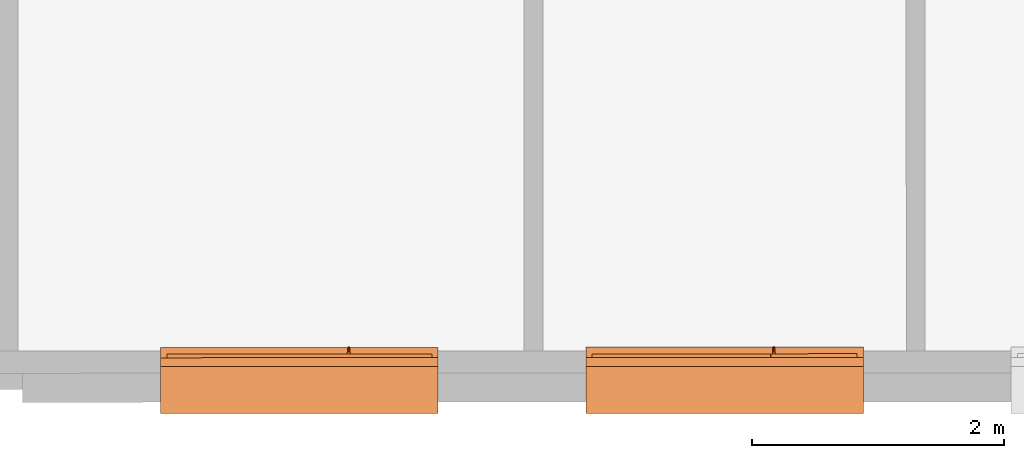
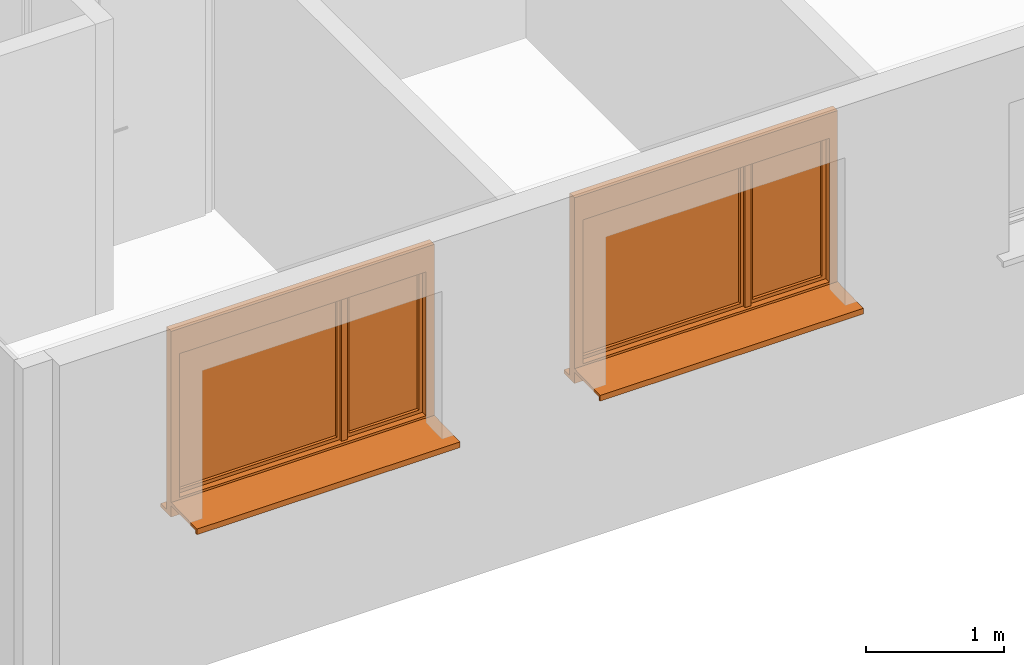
# One storey, part 3 of 9: 2 proxies.
"""IFC2X3 building model written with IfcOpenShell, lengths in metres."""

from ifc_helpers import new_model, entity, si_unit, converted_unit, derived_unit, direction, frame, origin, origin_with_axes, place, context, subcontext, project, spatial, closed_shell, open_shell, surface_model, source, transform, mapped, element, save


model = new_model("IFC2X3")

# Units and contexts
model_context = context("Model", 3, precision=1e-05, world=origin(), true_north=direction((0.772621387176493, -0.634867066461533)))
body_context = subcontext(model_context, "Body", "Model", "MODEL_VIEW")
ifc_project = project(units=[si_unit("LENGTHUNIT", "METRE"), si_unit("AREAUNIT", "SQUARE_METRE"), si_unit("VOLUMEUNIT", "CUBIC_METRE"), si_unit("MASSUNIT", "GRAM", prefix="KILO"), converted_unit("PLANEANGLEUNIT", "DEGREE", entity("IfcPlaneAngleMeasure", 0.0174532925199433), si_unit("PLANEANGLEUNIT", "RADIAN"), dimensions=[0, 0, 0, 0, 0, 0, 0]), derived_unit("THERMALTRANSMITTANCEUNIT", [(si_unit("POWERUNIT", "WATT"), 1), (si_unit("THERMODYNAMICTEMPERATUREUNIT", "KELVIN"), -1), (si_unit("LENGTHUNIT", "METRE"), -2)]), derived_unit("VOLUMETRICFLOWRATEUNIT", [(si_unit("LENGTHUNIT", "METRE"), 3), (converted_unit("TIMEUNIT", "hour", entity("IfcTimeMeasure", 3600.0), si_unit("TIMEUNIT", "SECOND"), dimensions=[0, 0, 1, 0, 0, 0, 0]), -1), (si_unit("LENGTHUNIT", "METRE"), -1)])], contexts=[model_context])

# Site, building, storey
site_placement = place(None, origin())
site = spatial("IfcSite", under=ifc_project, at=site_placement, Name="Modelle auf dem Nullpunkt", CompositionType="ELEMENT")
building_placement = place(site_placement, origin())
building = spatial("IfcBuilding", under=site, at=building_placement, Name="I", CompositionType="ELEMENT")
storey_placement = place(building_placement, origin())
storey = spatial("IfcBuildingStorey", under=building, at=storey_placement, Name="1.OG", CompositionType="ELEMENT", Elevation=0.0)

# Proxies
shared_shape_1 = source(origin_with_axes(), body_context, "Body", "SurfaceModel", [
    surface_model("IfcShellBasedSurfaceModel", [(0.0, 0.020000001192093, 0.1), (0.0, 0.372500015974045, 0.1), (0.0, 0.372500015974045, 0.13), (0.0, 0.0, 0.12), (0.0, 0.0, 0.07), (0.0, 0.020000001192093, 0.07), (2.19999999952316, 0.372500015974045, 0.1), (2.2, 0.020000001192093, 0.1), (2.2, 0.020000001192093, 0.07), (2.2, 0.0, 0.07), (2.2, 0.0, 0.12), (2.19999999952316, 0.372500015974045, 0.13)], [closed_shell([[[0, 1, 2, 3, 4, 5]], [[6, 7, 8, 9, 10, 11]], [[1, 0, 7, 6]], [[2, 1, 6, 11]], [[3, 2, 11, 10]], [[4, 3, 10, 9]], [[5, 4, 9, 8]], [[0, 5, 8, 7]]], orient=[[False], [False], [False], [False], [False], [False], [False], [False]])]),
    surface_model("IfcShellBasedSurfaceModel", [(0.0, 0.525000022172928, 0.0), (0.0, 0.525000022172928, 0.03), (0.0, 0.412500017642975, 0.03), (0.0, 0.412500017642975, 0.0), (2.2, 0.412500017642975, 0.0), (2.2, 0.412500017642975, 0.03), (2.19999999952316, 0.525000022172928, 0.03), (2.19999999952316, 0.525000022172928, 0.0)], [closed_shell([[[0, 1, 2, 3]], [[4, 5, 6, 7]], [[3, 4, 7, 0]], [[2, 5, 4, 3]], [[1, 6, 5, 2]], [[0, 7, 6, 1]]], orient=[[False], [False], [False], [False], [False], [False]])]),
    surface_model("IfcShellBasedSurfaceModel", [(0.0, 0.442500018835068, 1.64), (0.0, 0.442500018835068, 0.0), (0.0700000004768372, 0.442500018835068, 0.0), (0.0700000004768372, 0.442500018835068, 1.64), (0.0, 0.372500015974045, 0.0), (0.0, 0.372500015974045, 1.64), (0.07, 0.372500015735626, 1.64), (0.07, 0.372500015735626, 0.0)], [closed_shell([[[0, 1, 2, 3]], [[4, 5, 6, 7]], [[1, 0, 5, 4]], [[2, 1, 4, 7]], [[3, 2, 7, 6]], [[0, 3, 6, 5]]], orient=[[False], [False], [False], [False], [False], [False]])]),
    surface_model("IfcShellBasedSurfaceModel", [(2.12999999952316, 0.442500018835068, 1.64), (2.12999999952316, 0.442500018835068, 0.0), (2.2, 0.442500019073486, 0.0), (2.2, 0.442500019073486, 1.64), (2.12999999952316, 0.372500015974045, 0.0), (2.12999999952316, 0.372500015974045, 1.64), (2.19999999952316, 0.372500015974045, 1.64), (2.19999999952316, 0.372500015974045, 0.0)], [closed_shell([[[0, 1, 2, 3]], [[4, 5, 6, 7]], [[1, 0, 5, 4]], [[2, 1, 4, 7]], [[3, 2, 7, 6]], [[0, 3, 6, 5]]], orient=[[False], [False], [False], [False], [False], [False]])]),
    surface_model("IfcShellBasedSurfaceModel", [(0.0700000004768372, 0.442500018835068, 0.15), (0.0700000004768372, 0.442500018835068, 0.0), (2.12999999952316, 0.442500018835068, 0.0), (2.12999999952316, 0.442500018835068, 0.15), (0.07, 0.372500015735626, 0.0), (0.07, 0.372500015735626, 0.15), (2.12999999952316, 0.372500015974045, 0.15), (2.12999999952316, 0.372500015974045, 0.0)], [closed_shell([[[0, 1, 2, 3]], [[4, 5, 6, 7]], [[1, 0, 5, 4]], [[2, 1, 4, 7]], [[3, 2, 7, 6]], [[0, 3, 6, 5]]], orient=[[False], [False], [False], [False], [False], [False]])]),
    surface_model("IfcShellBasedSurfaceModel", [(0.0700000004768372, 0.442500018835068, 1.64), (0.0700000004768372, 0.442500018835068, 1.42), (2.12999999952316, 0.442500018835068, 1.42), (2.12999999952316, 0.442500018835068, 1.64), (0.07, 0.372500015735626, 1.42), (0.07, 0.372500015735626, 1.64), (2.12999999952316, 0.372500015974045, 1.64), (2.12999999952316, 0.372500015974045, 1.42)], [closed_shell([[[0, 1, 2, 3]], [[4, 5, 6, 7]], [[1, 0, 5, 4]], [[2, 1, 4, 7]], [[3, 2, 7, 6]], [[0, 3, 6, 5]]], orient=[[False], [False], [False], [False], [False], [False]])]),
    surface_model("IfcShellBasedSurfaceModel", [(0.0500000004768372, 0.472500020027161, 1.44), (0.0500000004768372, 0.472500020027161, 0.13), (0.100000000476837, 0.472500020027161, 0.13), (0.100000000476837, 0.472500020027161, 1.44), (0.0500000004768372, 0.422500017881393, 0.13), (0.0500000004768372, 0.422500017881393, 1.44), (0.1, 0.422500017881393, 1.44), (0.1, 0.422500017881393, 0.13)], [closed_shell([[[0, 1, 2, 3]], [[4, 5, 6, 7]], [[1, 0, 5, 4]], [[2, 1, 4, 7]], [[3, 2, 7, 6]], [[0, 3, 6, 5]]], orient=[[False], [False], [False], [False], [False], [False]])]),
    surface_model("IfcShellBasedSurfaceModel", [(1.41498387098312, 0.472500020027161, 1.44), (1.41498387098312, 0.472500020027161, 0.13), (1.46498387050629, 0.472500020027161, 0.13), (1.46498387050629, 0.472500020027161, 1.44), (1.41498387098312, 0.422500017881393, 0.13), (1.41498387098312, 0.422500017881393, 1.44), (1.46498387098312, 0.422500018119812, 1.44), (1.46498387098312, 0.422500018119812, 0.13)], [closed_shell([[[0, 1, 2, 3]], [[4, 5, 6, 7]], [[1, 0, 5, 4]], [[2, 1, 4, 7]], [[3, 2, 7, 6]], [[0, 3, 6, 5]]], orient=[[False], [False], [False], [False], [False], [False]])]),
    surface_model("IfcShellBasedSurfaceModel", [(0.100000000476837, 0.472500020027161, 0.18), (0.100000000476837, 0.472500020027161, 0.13), (1.41498387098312, 0.472500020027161, 0.13), (1.41498387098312, 0.472500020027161, 0.18), (0.1, 0.422500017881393, 0.13), (0.1, 0.422500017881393, 0.18), (1.41498387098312, 0.422500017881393, 0.18), (1.41498387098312, 0.422500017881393, 0.13)], [closed_shell([[[0, 1, 2, 3]], [[4, 5, 6, 7]], [[1, 0, 5, 4]], [[2, 1, 4, 7]], [[3, 2, 7, 6]], [[0, 3, 6, 5]]], orient=[[False], [False], [False], [False], [False], [False]])]),
    surface_model("IfcShellBasedSurfaceModel", [(0.100000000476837, 0.472500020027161, 1.44), (0.100000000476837, 0.472500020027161, 1.39), (1.41498387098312, 0.472500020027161, 1.39), (1.41498387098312, 0.472500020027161, 1.44), (0.1, 0.422500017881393, 1.39), (0.1, 0.422500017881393, 1.44), (1.41498387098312, 0.422500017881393, 1.44), (1.41498387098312, 0.422500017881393, 1.39)], [closed_shell([[[0, 1, 2, 3]], [[4, 5, 6, 7]], [[1, 0, 5, 4]], [[2, 1, 4, 7]], [[3, 2, 7, 6]], [[0, 3, 6, 5]]], orient=[[False], [False], [False], [False], [False], [False]])]),
    surface_model("IfcShellBasedSurfaceModel", [(1.43998387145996, 0.422500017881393, 1.42), (1.43998387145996, 0.422500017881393, 0.15), (1.48998387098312, 0.422500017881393, 0.15), (1.48998387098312, 0.422500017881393, 1.42), (1.43998387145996, 0.397500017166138, 0.15), (1.43998387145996, 0.397500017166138, 1.42), (1.48998387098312, 0.397500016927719, 1.42), (1.48998387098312, 0.397500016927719, 0.15)], [closed_shell([[[0, 1, 2, 3]], [[4, 5, 6, 7]], [[1, 0, 5, 4]], [[2, 1, 4, 7]], [[3, 2, 7, 6]], [[0, 3, 6, 5]]], orient=[[False], [False], [False], [False], [False], [False]])]),
    surface_model("IfcShellBasedSurfaceModel", [(1.46598387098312, 0.472500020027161, 1.44), (1.46598387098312, 0.472500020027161, 0.13), (1.51598387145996, 0.472500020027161, 0.13), (1.51598387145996, 0.472500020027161, 1.44), (1.46598387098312, 0.422500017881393, 0.13), (1.46598387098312, 0.422500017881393, 1.44), (1.51598387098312, 0.422500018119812, 1.44), (1.51598387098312, 0.422500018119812, 0.13)], [closed_shell([[[0, 1, 2, 3]], [[4, 5, 6, 7]], [[1, 0, 5, 4]], [[2, 1, 4, 7]], [[3, 2, 7, 6]], [[0, 3, 6, 5]]], orient=[[False], [False], [False], [False], [False], [False]])]),
    surface_model("IfcShellBasedSurfaceModel", [(2.1, 0.472500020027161, 1.44), (2.1, 0.472500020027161, 0.13), (2.15, 0.472500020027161, 0.13), (2.15, 0.472500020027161, 1.44), (2.09999999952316, 0.422500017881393, 0.13), (2.09999999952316, 0.422500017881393, 1.44), (2.15000000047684, 0.422500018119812, 1.44), (2.15000000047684, 0.422500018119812, 0.13)], [closed_shell([[[0, 1, 2, 3]], [[4, 5, 6, 7]], [[1, 0, 5, 4]], [[2, 1, 4, 7]], [[3, 2, 7, 6]], [[0, 3, 6, 5]]], orient=[[False], [False], [False], [False], [False], [False]])]),
    surface_model("IfcShellBasedSurfaceModel", [(1.51598387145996, 0.472500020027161, 0.18), (1.51598387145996, 0.472500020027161, 0.13), (2.1, 0.472500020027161, 0.13), (2.1, 0.472500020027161, 0.18), (1.51598387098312, 0.422500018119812, 0.13), (1.51598387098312, 0.422500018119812, 0.18), (2.09999999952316, 0.422500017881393, 0.18), (2.09999999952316, 0.422500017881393, 0.13)], [closed_shell([[[0, 1, 2, 3]], [[4, 5, 6, 7]], [[1, 0, 5, 4]], [[2, 1, 4, 7]], [[3, 2, 7, 6]], [[0, 3, 6, 5]]], orient=[[False], [False], [False], [False], [False], [False]])]),
    surface_model("IfcShellBasedSurfaceModel", [(1.51598387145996, 0.472500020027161, 1.44), (1.51598387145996, 0.472500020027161, 1.39), (2.1, 0.472500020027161, 1.39), (2.1, 0.472500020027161, 1.44), (1.51598387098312, 0.422500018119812, 1.39), (1.51598387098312, 0.422500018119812, 1.44), (2.09999999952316, 0.422500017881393, 1.44), (2.09999999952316, 0.422500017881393, 1.39)], [closed_shell([[[0, 1, 2, 3]], [[4, 5, 6, 7]], [[1, 0, 5, 4]], [[2, 1, 4, 7]], [[3, 2, 7, 6]], [[0, 3, 6, 5]]], orient=[[False], [False], [False], [False], [False], [False]])]),
    surface_model("IfcShellBasedSurfaceModel", [(1.47848387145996, 0.472500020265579, 0.75), (1.50348387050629, 0.472500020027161, 0.75), (1.50348387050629, 0.472500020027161, 0.71), (1.47848387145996, 0.472500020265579, 0.71), (1.47848387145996, 0.482500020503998, 0.71), (1.50348387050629, 0.482500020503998, 0.71), (1.50348387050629, 0.482500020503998, 0.75), (1.47848387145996, 0.482500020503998, 0.75)], [closed_shell([[[0, 1, 2, 3]], [[4, 5, 6, 7]], [[3, 4, 7, 0]], [[2, 5, 4, 3]], [[1, 6, 5, 2]], [[0, 7, 6, 1]]], orient=[[False], [False], [False], [False], [False], [False]])]),
    surface_model("IfcShellBasedSurfaceModel", [(1.50098387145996, 0.482500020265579, 0.73), (1.49964412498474, 0.482500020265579, 0.725), (1.49598387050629, 0.482500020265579, 0.721339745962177), (1.49098387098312, 0.482500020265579, 0.72), (1.48598387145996, 0.482500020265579, 0.721339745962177), (1.4823236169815, 0.482500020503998, 0.725), (1.48098387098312, 0.482500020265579, 0.73), (1.4823236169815, 0.482500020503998, 0.735), (1.48598387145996, 0.482500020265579, 0.738660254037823), (1.49098387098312, 0.482500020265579, 0.74), (1.49598387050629, 0.482500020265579, 0.738660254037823), (1.49964412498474, 0.482500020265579, 0.735), (1.49964412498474, 0.527500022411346, 0.735), (1.50098387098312, 0.522500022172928, 0.73), (1.49598387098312, 0.531160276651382, 0.738660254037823), (1.49098387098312, 0.532500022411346, 0.74), (1.48598387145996, 0.531160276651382, 0.738660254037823), (1.4823236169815, 0.527500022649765, 0.735), (1.48098387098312, 0.522500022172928, 0.73), (1.4823236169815, 0.517500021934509, 0.725), (1.48598387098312, 0.513839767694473, 0.721339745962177), (1.49098387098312, 0.512500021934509, 0.72), (1.49598387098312, 0.513839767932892, 0.721339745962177), (1.49964412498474, 0.517500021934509, 0.725), (1.50098387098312, 0.522500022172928, 0.615), (1.49964412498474, 0.527500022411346, 0.615), (1.49598387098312, 0.531160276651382, 0.615), (1.49098387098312, 0.532500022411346, 0.615), (1.48598387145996, 0.531160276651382, 0.615), (1.4823236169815, 0.527500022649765, 0.615), (1.48098387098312, 0.522500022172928, 0.615), (1.4823236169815, 0.517500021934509, 0.615), (1.48598387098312, 0.513839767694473, 0.615), (1.49098387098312, 0.512500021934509, 0.615), (1.49598387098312, 0.513839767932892, 0.615), (1.49964412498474, 0.517500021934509, 0.615)], [closed_shell([[[0, 1, 2, 3, 4, 5, 6, 7, 8, 9, 10, 11]], [[0, 11, 12, 13]], [[11, 10, 14, 12]], [[10, 9, 15, 14]], [[9, 8, 16, 15]], [[8, 7, 17, 16]], [[7, 6, 18, 17]], [[6, 5, 19, 18]], [[5, 4, 20, 19]], [[4, 3, 21, 20]], [[3, 2, 22, 21]], [[2, 1, 23, 22]], [[1, 0, 13, 23]], [[24, 25, 26, 27, 28, 29, 30, 31, 32, 33, 34, 35]], [[13, 12, 25, 24]], [[12, 14, 26, 25]], [[14, 15, 27, 26]], [[15, 16, 28, 27]], [[16, 17, 29, 28]], [[17, 18, 30, 29]], [[18, 19, 31, 30]], [[19, 20, 32, 31]], [[20, 21, 33, 32]], [[21, 22, 34, 33]], [[22, 23, 35, 34]], [[23, 13, 24, 35]]], orient=[[False], [False], [False], [False], [False], [False], [False], [False], [False], [False], [False], [False], [False], [False], [False], [False], [False], [False], [False], [False], [False], [False], [False], [False], [False], [False]])]),
    surface_model("IfcShellBasedSurfaceModel", [(0.100000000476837, 0.447500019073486, 0.18), (1.41498387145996, 0.447500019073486, 0.18), (1.41498387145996, 0.447500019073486, 1.39), (0.100000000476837, 0.447500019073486, 1.39)], [open_shell([[[0, 1, 2, 3]]], orient=[[False]])]),
    surface_model("IfcShellBasedSurfaceModel", [(1.51598387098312, 0.447500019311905, 0.18), (2.1, 0.447500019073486, 0.18), (2.1, 0.447500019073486, 1.39), (1.51598387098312, 0.447500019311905, 1.39)], [open_shell([[[0, 1, 2, 3]]], orient=[[False]])]),
])
proxy_1_placement = place(storey_placement, frame((30.6756132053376, -8.23292398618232, 439.75), z_axis=(0.0, 0.0, 1.0), x_axis=(0.999999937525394, 0.000353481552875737, 0.0)))
element("IfcBuildingElementProxy", 1, at=proxy_1_placement, inside=storey, Name="2flg Weiß Stulp", context=body_context, shape_type="MappedRepresentation", body=[
    mapped(shared_shape_1, transform((0.0, 0.0, 0.0), x_axis=(1.0, 0.0, 0.0), y_axis=(0.0, 1.0, 0.0), z_axis=(0.0, 0.0, 1.0), scale=1.0)),
])
shared_shape_2 = source(origin_with_axes(), body_context, "Body", "SurfaceModel", [
    surface_model("IfcShellBasedSurfaceModel", [(0.0, 0.020000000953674, 0.1), (0.0, 0.372500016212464, 0.1), (0.0, 0.372500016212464, 0.13), (0.0, 0.0, 0.12), (0.0, 0.0, 0.07), (0.0, 0.020000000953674, 0.07), (2.20000000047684, 0.372500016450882, 0.1), (2.20000000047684, 0.020000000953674, 0.1), (2.20000000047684, 0.020000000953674, 0.07), (2.20000000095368, 0.0, 0.07), (2.20000000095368, 0.0, 0.12), (2.20000000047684, 0.372500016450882, 0.13)], [closed_shell([[[0, 1, 2, 3, 4, 5]], [[6, 7, 8, 9, 10, 11]], [[1, 0, 7, 6]], [[2, 1, 6, 11]], [[3, 2, 11, 10]], [[4, 3, 10, 9]], [[5, 4, 9, 8]], [[0, 5, 8, 7]]], orient=[[False], [False], [False], [False], [False], [False], [False], [False]])]),
    surface_model("IfcShellBasedSurfaceModel", [(0.0, 0.525000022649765, 0.0), (0.0, 0.525000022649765, 0.03), (0.0, 0.412500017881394, 0.03), (0.0, 0.412500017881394, 0.0), (2.20000000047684, 0.412500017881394, 0.0), (2.20000000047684, 0.412500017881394, 0.03), (2.20000000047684, 0.525000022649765, 0.03), (2.20000000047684, 0.525000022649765, 0.0)], [closed_shell([[[0, 1, 2, 3]], [[4, 5, 6, 7]], [[3, 4, 7, 0]], [[2, 5, 4, 3]], [[1, 6, 5, 2]], [[0, 7, 6, 1]]], orient=[[False], [False], [False], [False], [False], [False]])]),
    surface_model("IfcShellBasedSurfaceModel", [(0.0, 0.442500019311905, 1.64), (0.0, 0.442500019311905, 0.0), (0.0700000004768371, 0.442500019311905, 0.0), (0.0700000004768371, 0.442500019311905, 1.64), (0.0, 0.372500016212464, 0.0), (0.0, 0.372500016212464, 1.64), (0.0700000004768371, 0.372500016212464, 1.64), (0.0700000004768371, 0.372500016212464, 0.0)], [closed_shell([[[0, 1, 2, 3]], [[4, 5, 6, 7]], [[1, 0, 5, 4]], [[2, 1, 4, 7]], [[3, 2, 7, 6]], [[0, 3, 6, 5]]], orient=[[False], [False], [False], [False], [False], [False]])]),
    surface_model("IfcShellBasedSurfaceModel", [(2.13000000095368, 0.442500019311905, 1.64), (2.13000000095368, 0.442500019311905, 0.0), (2.20000000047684, 0.442500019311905, 0.0), (2.20000000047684, 0.442500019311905, 1.64), (2.13000000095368, 0.372500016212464, 0.0), (2.13000000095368, 0.372500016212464, 1.64), (2.20000000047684, 0.372500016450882, 1.64), (2.20000000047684, 0.372500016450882, 0.0)], [closed_shell([[[0, 1, 2, 3]], [[4, 5, 6, 7]], [[1, 0, 5, 4]], [[2, 1, 4, 7]], [[3, 2, 7, 6]], [[0, 3, 6, 5]]], orient=[[False], [False], [False], [False], [False], [False]])]),
    surface_model("IfcShellBasedSurfaceModel", [(0.0700000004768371, 0.442500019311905, 0.15), (0.0700000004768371, 0.442500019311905, 0.0), (2.13000000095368, 0.442500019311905, 0.0), (2.13000000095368, 0.442500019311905, 0.15), (0.0700000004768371, 0.372500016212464, 0.0), (0.0700000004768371, 0.372500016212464, 0.15), (2.13000000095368, 0.372500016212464, 0.15), (2.13000000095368, 0.372500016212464, 0.0)], [closed_shell([[[0, 1, 2, 3]], [[4, 5, 6, 7]], [[1, 0, 5, 4]], [[2, 1, 4, 7]], [[3, 2, 7, 6]], [[0, 3, 6, 5]]], orient=[[False], [False], [False], [False], [False], [False]])]),
    surface_model("IfcShellBasedSurfaceModel", [(0.0700000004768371, 0.442500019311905, 1.64), (0.0700000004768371, 0.442500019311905, 1.42), (2.13000000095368, 0.442500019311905, 1.42), (2.13000000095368, 0.442500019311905, 1.64), (0.0700000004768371, 0.372500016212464, 1.42), (0.0700000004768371, 0.372500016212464, 1.64), (2.13000000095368, 0.372500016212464, 1.64), (2.13000000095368, 0.372500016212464, 1.42)], [closed_shell([[[0, 1, 2, 3]], [[4, 5, 6, 7]], [[1, 0, 5, 4]], [[2, 1, 4, 7]], [[3, 2, 7, 6]], [[0, 3, 6, 5]]], orient=[[False], [False], [False], [False], [False], [False]])]),
    surface_model("IfcShellBasedSurfaceModel", [(0.05, 0.472500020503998, 1.44), (0.05, 0.472500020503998, 0.13), (0.100000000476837, 0.472500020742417, 0.13), (0.100000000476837, 0.472500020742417, 1.44), (0.0500000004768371, 0.422500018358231, 0.13), (0.0500000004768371, 0.422500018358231, 1.44), (0.100000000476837, 0.422500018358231, 1.44), (0.100000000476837, 0.422500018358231, 0.13)], [closed_shell([[[0, 1, 2, 3]], [[4, 5, 6, 7]], [[1, 0, 5, 4]], [[2, 1, 4, 7]], [[3, 2, 7, 6]], [[0, 3, 6, 5]]], orient=[[False], [False], [False], [False], [False], [False]])]),
    surface_model("IfcShellBasedSurfaceModel", [(1.41498387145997, 0.472500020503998, 1.44), (1.41498387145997, 0.472500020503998, 0.13), (1.4649838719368, 0.472500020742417, 0.13), (1.4649838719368, 0.472500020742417, 1.44), (1.41498387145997, 0.422500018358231, 0.13), (1.41498387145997, 0.422500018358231, 1.44), (1.4649838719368, 0.422500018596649, 1.44), (1.4649838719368, 0.422500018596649, 0.13)], [closed_shell([[[0, 1, 2, 3]], [[4, 5, 6, 7]], [[1, 0, 5, 4]], [[2, 1, 4, 7]], [[3, 2, 7, 6]], [[0, 3, 6, 5]]], orient=[[False], [False], [False], [False], [False], [False]])]),
    surface_model("IfcShellBasedSurfaceModel", [(0.100000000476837, 0.472500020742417, 0.18), (0.100000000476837, 0.472500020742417, 0.13), (1.41498387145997, 0.472500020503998, 0.13), (1.41498387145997, 0.472500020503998, 0.18), (0.100000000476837, 0.422500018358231, 0.13), (0.100000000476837, 0.422500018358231, 0.18), (1.41498387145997, 0.422500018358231, 0.18), (1.41498387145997, 0.422500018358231, 0.13)], [closed_shell([[[0, 1, 2, 3]], [[4, 5, 6, 7]], [[1, 0, 5, 4]], [[2, 1, 4, 7]], [[3, 2, 7, 6]], [[0, 3, 6, 5]]], orient=[[False], [False], [False], [False], [False], [False]])]),
    surface_model("IfcShellBasedSurfaceModel", [(0.100000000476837, 0.472500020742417, 1.44), (0.100000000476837, 0.472500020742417, 1.39), (1.41498387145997, 0.472500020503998, 1.39), (1.41498387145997, 0.472500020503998, 1.44), (0.100000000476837, 0.422500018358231, 1.39), (0.100000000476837, 0.422500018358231, 1.44), (1.41498387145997, 0.422500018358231, 1.44), (1.41498387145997, 0.422500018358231, 1.39)], [closed_shell([[[0, 1, 2, 3]], [[4, 5, 6, 7]], [[1, 0, 5, 4]], [[2, 1, 4, 7]], [[3, 2, 7, 6]], [[0, 3, 6, 5]]], orient=[[False], [False], [False], [False], [False], [False]])]),
    surface_model("IfcShellBasedSurfaceModel", [(1.43998387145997, 0.422500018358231, 1.42), (1.43998387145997, 0.422500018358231, 0.15), (1.48998387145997, 0.422500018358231, 0.15), (1.48998387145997, 0.422500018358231, 1.42), (1.43998387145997, 0.397500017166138, 0.15), (1.43998387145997, 0.397500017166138, 1.42), (1.48998387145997, 0.397500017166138, 1.42), (1.48998387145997, 0.397500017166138, 0.15)], [closed_shell([[[0, 1, 2, 3]], [[4, 5, 6, 7]], [[1, 0, 5, 4]], [[2, 1, 4, 7]], [[3, 2, 7, 6]], [[0, 3, 6, 5]]], orient=[[False], [False], [False], [False], [False], [False]])]),
    surface_model("IfcShellBasedSurfaceModel", [(1.46598387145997, 0.472500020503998, 1.44), (1.46598387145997, 0.472500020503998, 0.13), (1.51598387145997, 0.472500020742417, 0.13), (1.51598387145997, 0.472500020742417, 1.44), (1.4659838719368, 0.422500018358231, 0.13), (1.4659838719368, 0.422500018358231, 1.44), (1.51598387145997, 0.422500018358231, 1.44), (1.51598387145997, 0.422500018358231, 0.13)], [closed_shell([[[0, 1, 2, 3]], [[4, 5, 6, 7]], [[1, 0, 5, 4]], [[2, 1, 4, 7]], [[3, 2, 7, 6]], [[0, 3, 6, 5]]], orient=[[False], [False], [False], [False], [False], [False]])]),
    surface_model("IfcShellBasedSurfaceModel", [(2.10000000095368, 0.472500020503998, 1.44), (2.10000000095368, 0.472500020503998, 0.13), (2.15000000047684, 0.472500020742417, 0.13), (2.15000000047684, 0.472500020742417, 1.44), (2.10000000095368, 0.422500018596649, 0.13), (2.10000000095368, 0.422500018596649, 1.44), (2.15000000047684, 0.422500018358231, 1.44), (2.15000000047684, 0.422500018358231, 0.13)], [closed_shell([[[0, 1, 2, 3]], [[4, 5, 6, 7]], [[1, 0, 5, 4]], [[2, 1, 4, 7]], [[3, 2, 7, 6]], [[0, 3, 6, 5]]], orient=[[False], [False], [False], [False], [False], [False]])]),
    surface_model("IfcShellBasedSurfaceModel", [(1.51598387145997, 0.472500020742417, 0.18), (1.51598387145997, 0.472500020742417, 0.13), (2.10000000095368, 0.472500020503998, 0.13), (2.10000000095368, 0.472500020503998, 0.18), (1.51598387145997, 0.422500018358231, 0.13), (1.51598387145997, 0.422500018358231, 0.18), (2.10000000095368, 0.422500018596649, 0.18), (2.10000000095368, 0.422500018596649, 0.13)], [closed_shell([[[0, 1, 2, 3]], [[4, 5, 6, 7]], [[1, 0, 5, 4]], [[2, 1, 4, 7]], [[3, 2, 7, 6]], [[0, 3, 6, 5]]], orient=[[False], [False], [False], [False], [False], [False]])]),
    surface_model("IfcShellBasedSurfaceModel", [(1.51598387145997, 0.472500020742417, 1.44), (1.51598387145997, 0.472500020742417, 1.39), (2.10000000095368, 0.472500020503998, 1.39), (2.10000000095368, 0.472500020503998, 1.44), (1.51598387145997, 0.422500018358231, 1.39), (1.51598387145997, 0.422500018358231, 1.44), (2.10000000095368, 0.422500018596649, 1.44), (2.10000000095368, 0.422500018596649, 1.39)], [closed_shell([[[0, 1, 2, 3]], [[4, 5, 6, 7]], [[1, 0, 5, 4]], [[2, 1, 4, 7]], [[3, 2, 7, 6]], [[0, 3, 6, 5]]], orient=[[False], [False], [False], [False], [False], [False]])]),
    surface_model("IfcShellBasedSurfaceModel", [(1.47848387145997, 0.472500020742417, 0.75), (1.5034838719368, 0.472500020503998, 0.75), (1.5034838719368, 0.472500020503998, 0.71), (1.47848387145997, 0.472500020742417, 0.71), (1.47848387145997, 0.482500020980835, 0.71), (1.5034838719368, 0.482500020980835, 0.71), (1.5034838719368, 0.482500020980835, 0.75), (1.47848387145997, 0.482500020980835, 0.75)], [closed_shell([[[0, 1, 2, 3]], [[4, 5, 6, 7]], [[3, 4, 7, 0]], [[2, 5, 4, 3]], [[1, 6, 5, 2]], [[0, 7, 6, 1]]], orient=[[False], [False], [False], [False], [False], [False]])]),
    surface_model("IfcShellBasedSurfaceModel", [(1.50098387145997, 0.482500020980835, 0.73), (1.49964412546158, 0.482500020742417, 0.725), (1.4959838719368, 0.482500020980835, 0.721339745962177), (1.49098387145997, 0.482500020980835, 0.72), (1.48598387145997, 0.482500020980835, 0.721339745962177), (1.48232361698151, 0.482500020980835, 0.725), (1.48098387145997, 0.482500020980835, 0.73), (1.48232361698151, 0.482500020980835, 0.735), (1.48598387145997, 0.482500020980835, 0.738660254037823), (1.49098387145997, 0.482500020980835, 0.74), (1.4959838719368, 0.482500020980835, 0.738660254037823), (1.49964412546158, 0.482500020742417, 0.735), (1.49964412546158, 0.527500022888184, 0.735), (1.5009838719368, 0.522500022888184, 0.73), (1.49598387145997, 0.53116027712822, 0.738660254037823), (1.49098387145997, 0.532500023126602, 0.74), (1.4859838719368, 0.53116027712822, 0.738660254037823), (1.48232361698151, 0.527500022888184, 0.735), (1.48098387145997, 0.522500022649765, 0.73), (1.48232361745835, 0.517500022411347, 0.725), (1.48598387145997, 0.513839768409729, 0.721339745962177), (1.49098387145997, 0.512500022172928, 0.72), (1.49598387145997, 0.513839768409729, 0.721339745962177), (1.49964412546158, 0.517500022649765, 0.725), (1.5009838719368, 0.522500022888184, 0.615), (1.49964412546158, 0.527500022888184, 0.615), (1.49598387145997, 0.53116027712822, 0.615), (1.49098387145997, 0.532500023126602, 0.615), (1.4859838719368, 0.53116027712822, 0.615), (1.48232361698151, 0.527500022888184, 0.615), (1.48098387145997, 0.522500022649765, 0.615), (1.48232361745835, 0.517500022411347, 0.615), (1.48598387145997, 0.513839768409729, 0.615), (1.49098387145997, 0.512500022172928, 0.615), (1.49598387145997, 0.513839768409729, 0.615), (1.49964412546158, 0.517500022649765, 0.615)], [closed_shell([[[0, 1, 2, 3, 4, 5, 6, 7, 8, 9, 10, 11]], [[0, 11, 12, 13]], [[11, 10, 14, 12]], [[10, 9, 15, 14]], [[9, 8, 16, 15]], [[8, 7, 17, 16]], [[7, 6, 18, 17]], [[6, 5, 19, 18]], [[5, 4, 20, 19]], [[4, 3, 21, 20]], [[3, 2, 22, 21]], [[2, 1, 23, 22]], [[1, 0, 13, 23]], [[24, 25, 26, 27, 28, 29, 30, 31, 32, 33, 34, 35]], [[13, 12, 25, 24]], [[12, 14, 26, 25]], [[14, 15, 27, 26]], [[15, 16, 28, 27]], [[16, 17, 29, 28]], [[17, 18, 30, 29]], [[18, 19, 31, 30]], [[19, 20, 32, 31]], [[20, 21, 33, 32]], [[21, 22, 34, 33]], [[22, 23, 35, 34]], [[23, 13, 24, 35]]], orient=[[False], [False], [False], [False], [False], [False], [False], [False], [False], [False], [False], [False], [False], [False], [False], [False], [False], [False], [False], [False], [False], [False], [False], [False], [False], [False]])]),
    surface_model("IfcShellBasedSurfaceModel", [(0.100000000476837, 0.447500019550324, 0.18), (1.41498387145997, 0.447500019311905, 0.18), (1.41498387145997, 0.447500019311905, 1.39), (0.100000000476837, 0.447500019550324, 1.39)], [open_shell([[[0, 1, 2, 3]]], orient=[[False]])]),
    surface_model("IfcShellBasedSurfaceModel", [(1.5159838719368, 0.447500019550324, 0.18), (2.10000000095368, 0.447500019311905, 0.18), (2.10000000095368, 0.447500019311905, 1.39), (1.5159838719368, 0.447500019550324, 1.39)], [open_shell([[[0, 1, 2, 3]]], orient=[[False]])]),
])
proxy_2_placement = place(storey_placement, frame((34.0456129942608, -8.23173275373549, 439.75), z_axis=(0.0, 0.0, 1.0), x_axis=(0.999999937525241, 0.000353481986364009, 0.0)))
element("IfcBuildingElementProxy", 2, at=proxy_2_placement, inside=storey, Name="2flg Weiß Stulp", context=body_context, shape_type="MappedRepresentation", body=[
    mapped(shared_shape_2, transform((0.0, 0.0, 0.0), x_axis=(1.0, 0.0, 0.0), y_axis=(0.0, 1.0, 0.0), z_axis=(0.0, 0.0, 1.0), scale=1.0)),
])

save(model, "model.ifc")
